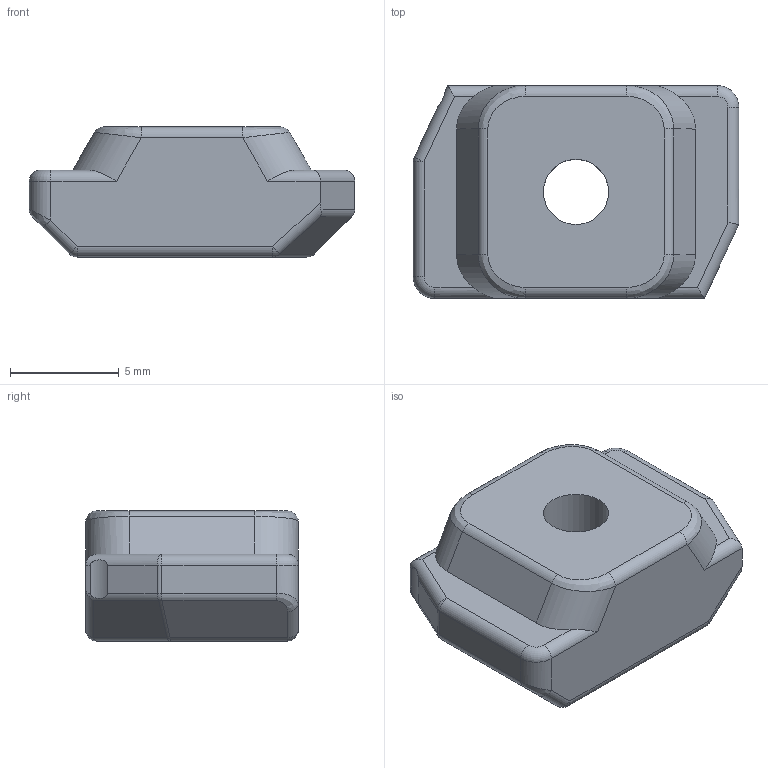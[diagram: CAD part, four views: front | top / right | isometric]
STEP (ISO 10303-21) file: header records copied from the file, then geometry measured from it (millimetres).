
FILE_DESCRIPTION(('STEP AP214'),'1');
FILE_NAME('ND40-M3.stp','2021-06-17T11:11:16',(' '),(' '),'Spatial InterOp 3D',' ',' ');
FILE_SCHEMA(('AUTOMOTIVE_DESIGN { 1 0 10303 214 1 1 1 1 }'));
Length unit declared in the file: millimetre
Products named in the file (1): ND40-M3
Bounding box: 15 x 9.8 x 6 mm (x, y, z)
Volume: 663.3 mm3; surface area: 516.5 mm2
Topology: 1 solids, 1 shells, 72 faces, 170 edges, 92 vertices
Faces by surface type: cylinder 38, plane 17, sphere 9, bspline 6, torus 2
Full cylindrical faces by diameter (mm): 3 x1
Entity records: 2904 total; most frequent: CARTESIAN_POINT 698, DIRECTION 364, ORIENTED_EDGE 322, EDGE_CURVE 161, AXIS2_PLACEMENT_3D 142, VERTEX_POINT 92, LINE 80, VECTOR 80
